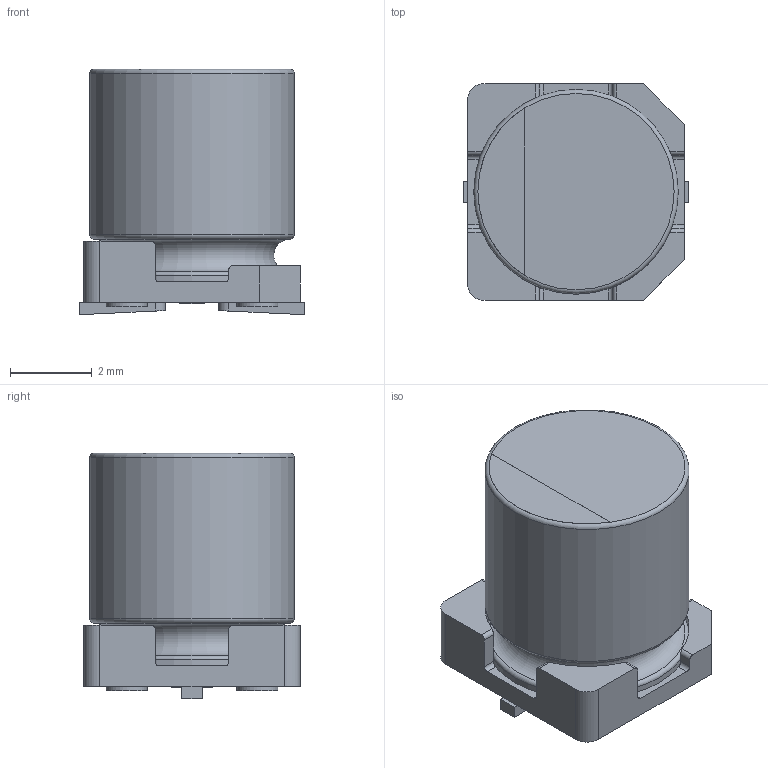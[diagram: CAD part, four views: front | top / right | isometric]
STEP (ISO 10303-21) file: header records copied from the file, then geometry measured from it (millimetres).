
FILE_DESCRIPTION(/* description */ (''),/* implementation_level */ '2;1');
FILE_NAME(/* name */ '5x6_Chip.stp',/* time_stamp */ '2017-09-04T16:34:01+09:00',/* author */ (''),/* organization */ (''),/* preprocessor_version */ 'ST-DEVELOPER v16',/* originating_system */ 'SIEMENS PLM Software NX 11.0',/* authorisation */ '');
FILE_SCHEMA (('AUTOMOTIVE_DESIGN { 1 0 10303 214 3 1 1 1 }'));
Length unit declared in the file: millimetre
Products named in the file (1): 5x6_Chip_0
Bounding box: 5.5 x 5.3 x 6 mm (x, y, z)
Volume: 116 mm3; surface area: 221.3 mm2
Topology: 5 solids, 5 shells, 81 faces, 194 edges, 128 vertices
Faces by surface type: plane 44, cylinder 33, torus 4
Full cylindrical faces by diameter (mm): 1 x4, 5 x2
Entity records: 2546 total; most frequent: CARTESIAN_POINT 536, DIRECTION 384, ORIENTED_EDGE 366, EDGE_CURVE 183, AXIS2_PLACEMENT_3D 135, VERTEX_POINT 127, LINE 114, VECTOR 114
